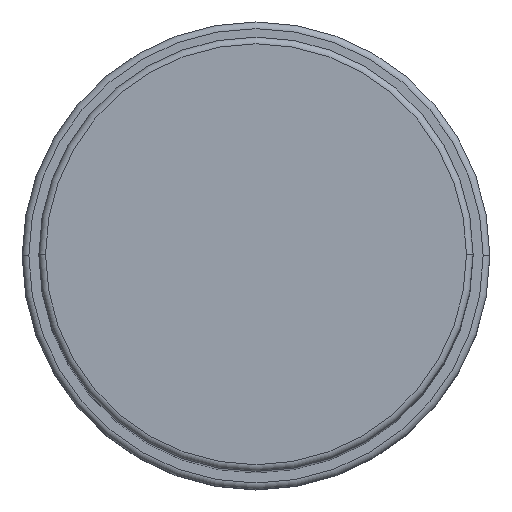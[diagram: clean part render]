
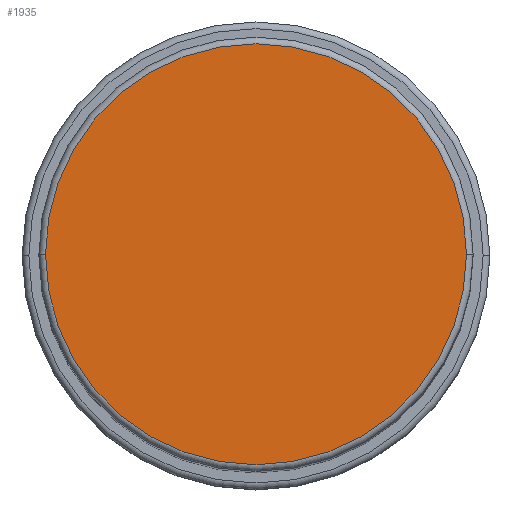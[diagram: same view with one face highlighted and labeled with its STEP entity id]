
A CAD part, top view. The second image highlights one B-rep face of the part: STEP entity #1935.
In plain terms, the highlighted planar face has unit normal (0, 0, 1).
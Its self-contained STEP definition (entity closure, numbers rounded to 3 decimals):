
#10 = ORIENTED_EDGE ( 'NONE', *, *, #418, .T. ) ;
#51 = CIRCLE ( 'NONE', #408, 31.5 ) ;
#294 = ORIENTED_EDGE ( 'NONE', *, *, #1252, .T. ) ;
#408 = AXIS2_PLACEMENT_3D ( 'NONE', #1589, #1864, #1908 ) ;
#418 = EDGE_CURVE ( 'NONE', #1535, #1896, #1330, .T. ) ;
#451 = AXIS2_PLACEMENT_3D ( 'NONE', #1712, #1548, #1292 ) ;
#574 = CARTESIAN_POINT ( 'NONE',  ( -31.5, 0., 148. ) ) ;
#733 = FACE_OUTER_BOUND ( 'NONE', #1957, .T. ) ;
#979 = CARTESIAN_POINT ( 'NONE',  ( 31.5, 0., 148. ) ) ;
#1152 = AXIS2_PLACEMENT_3D ( 'NONE', #1623, #1784, #1941 ) ;
#1252 = EDGE_CURVE ( 'NONE', #1896, #1535, #51, .T. ) ;
#1292 = DIRECTION ( 'NONE',  ( 1., 0., 0. ) ) ;
#1307 = PLANE ( 'NONE',  #1152 ) ;
#1330 = CIRCLE ( 'NONE', #451, 31.5 ) ;
#1535 = VERTEX_POINT ( 'NONE', #574 ) ;
#1548 = DIRECTION ( 'NONE',  ( 0., 0., 1. ) ) ;
#1589 = CARTESIAN_POINT ( 'NONE',  ( 0., 0., 148. ) ) ;
#1623 = CARTESIAN_POINT ( 'NONE',  ( 0., 0., 148. ) ) ;
#1712 = CARTESIAN_POINT ( 'NONE',  ( 0., 0., 148. ) ) ;
#1784 = DIRECTION ( 'NONE',  ( 0., 0., 1. ) ) ;
#1864 = DIRECTION ( 'NONE',  ( 0., 0., 1. ) ) ;
#1896 = VERTEX_POINT ( 'NONE', #979 ) ;
#1908 = DIRECTION ( 'NONE',  ( 1., 0., 0. ) ) ;
#1935 = ADVANCED_FACE ( 'NONE', ( #733 ), #1307, .T. ) ;
#1941 = DIRECTION ( 'NONE',  ( 1., 0., 0. ) ) ;
#1957 = EDGE_LOOP ( 'NONE', ( #294, #10 ) ) ;
